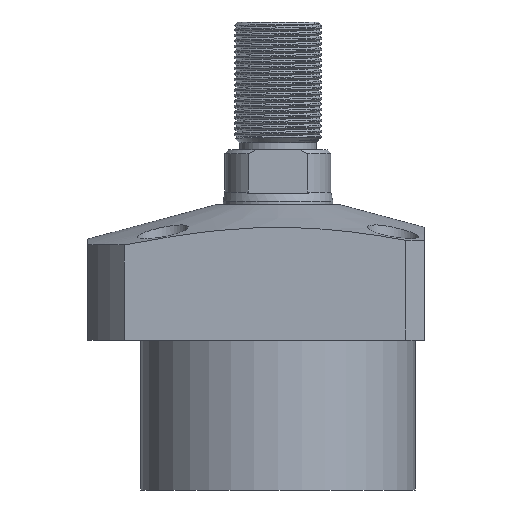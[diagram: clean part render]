
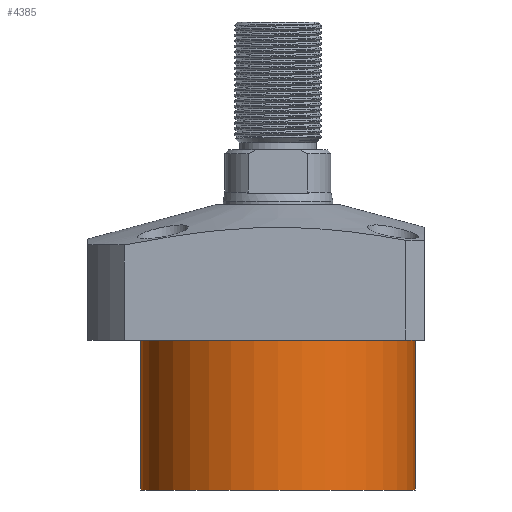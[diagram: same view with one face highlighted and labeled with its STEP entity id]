
A CAD part, front view. The second image highlights one B-rep face of the part: STEP entity #4385.
In plain terms, the highlighted cylindrical face has radius 37.5 mm (diameter 75 mm), a partial arc.
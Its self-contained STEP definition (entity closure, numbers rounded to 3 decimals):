
#317 = DIRECTION ( 'NONE',  ( 0., 0., 1. ) ) ;
#705 = CARTESIAN_POINT ( 'NONE',  ( 37.5, 0., -18.5 ) ) ;
#802 = VECTOR ( 'NONE', #317, 1000. ) ;
#854 = DIRECTION ( 'NONE',  ( 0., 0., 1. ) ) ;
#859 = CARTESIAN_POINT ( 'NONE',  ( -37.5, 0., -18.5 ) ) ;
#880 = CARTESIAN_POINT ( 'NONE',  ( 0., 0., -59.5 ) ) ;
#937 = AXIS2_PLACEMENT_3D ( 'NONE', #880, #854, #2179 ) ;
#1130 = VERTEX_POINT ( 'NONE', #6554 ) ;
#1262 = LINE ( 'NONE', #1650, #5635 ) ;
#1378 = AXIS2_PLACEMENT_3D ( 'NONE', #1900, #6760, #5058 ) ;
#1650 = CARTESIAN_POINT ( 'NONE',  ( -37.5, 0., -59.5 ) ) ;
#1781 = CIRCLE ( 'NONE', #1378, 37.5 ) ;
#1888 = CIRCLE ( 'NONE', #5324, 37.5 ) ;
#1900 = CARTESIAN_POINT ( 'NONE',  ( 0., 0., -59.5 ) ) ;
#2179 = DIRECTION ( 'NONE',  ( 1., 0., 0. ) ) ;
#2386 = ORIENTED_EDGE ( 'NONE', *, *, #8028, .T. ) ;
#2816 = CARTESIAN_POINT ( 'NONE',  ( 0., 0., -18.5 ) ) ;
#3164 = ORIENTED_EDGE ( 'NONE', *, *, #3223, .F. ) ;
#3223 = EDGE_CURVE ( 'NONE', #1130, #5457, #1262, .T. ) ;
#3247 = VERTEX_POINT ( 'NONE', #7313 ) ;
#3314 = FACE_OUTER_BOUND ( 'NONE', #3855, .T. ) ;
#3597 = CYLINDRICAL_SURFACE ( 'NONE', #937, 37.5 ) ;
#3637 = DIRECTION ( 'NONE',  ( 0., 0., 1. ) ) ;
#3855 = EDGE_LOOP ( 'NONE', ( #3164, #5278, #2386, #5901 ) ) ;
#4385 = ADVANCED_FACE ( 'NONE', ( #3314 ), #3597, .T. ) ;
#5001 = LINE ( 'NONE', #7093, #802 ) ;
#5058 = DIRECTION ( 'NONE',  ( -1., 0., 0. ) ) ;
#5278 = ORIENTED_EDGE ( 'NONE', *, *, #7060, .F. ) ;
#5324 = AXIS2_PLACEMENT_3D ( 'NONE', #2816, #6588, #7746 ) ;
#5440 = VERTEX_POINT ( 'NONE', #705 ) ;
#5457 = VERTEX_POINT ( 'NONE', #859 ) ;
#5635 = VECTOR ( 'NONE', #3637, 1000. ) ;
#5901 = ORIENTED_EDGE ( 'NONE', *, *, #6755, .T. ) ;
#6554 = CARTESIAN_POINT ( 'NONE',  ( -37.5, 0., -59.5 ) ) ;
#6588 = DIRECTION ( 'NONE',  ( 0., 0., -1. ) ) ;
#6755 = EDGE_CURVE ( 'NONE', #5440, #5457, #1888, .T. ) ;
#6760 = DIRECTION ( 'NONE',  ( 0., 0., -1. ) ) ;
#7060 = EDGE_CURVE ( 'NONE', #3247, #1130, #1781, .T. ) ;
#7093 = CARTESIAN_POINT ( 'NONE',  ( 37.5, 0., -59.5 ) ) ;
#7313 = CARTESIAN_POINT ( 'NONE',  ( 37.5, 0., -59.5 ) ) ;
#7746 = DIRECTION ( 'NONE',  ( 1., 0., 0. ) ) ;
#8028 = EDGE_CURVE ( 'NONE', #3247, #5440, #5001, .T. ) ;
